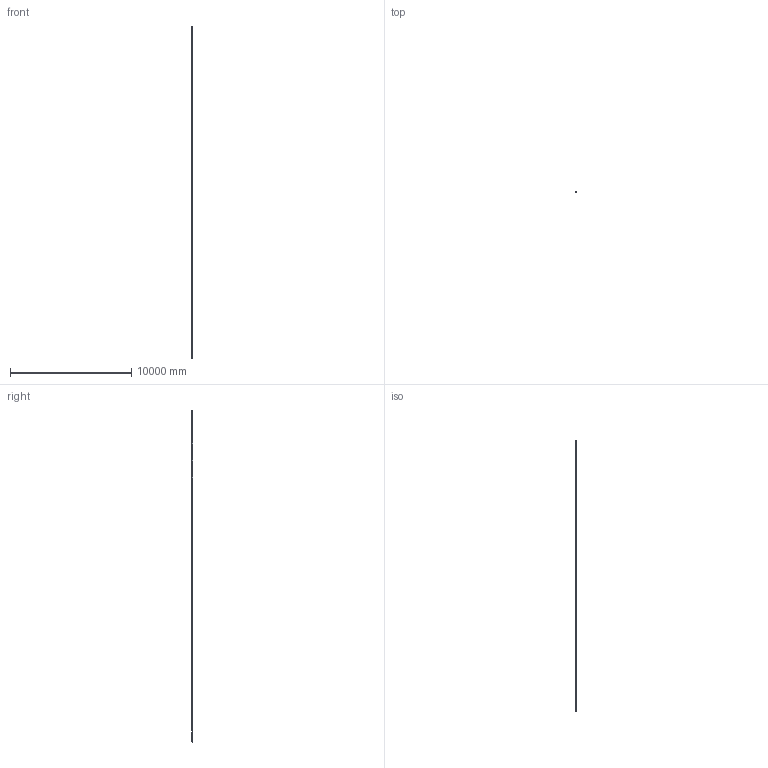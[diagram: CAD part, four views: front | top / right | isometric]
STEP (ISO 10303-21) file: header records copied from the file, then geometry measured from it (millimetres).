
FILE_DESCRIPTION(('Creo Elements/Direct Modeling STEP Export'),'2;1');
FILE_NAME('F-270.stp','2011-11-18T12:37:45',(''),(''),'Creo Elements/Direct Modeling STEP processor for AP214 (Solid Model)','Creo Elements/Direct Modeling 17.0C 05-Feb-2011 (C) Parametric Technology GmbH','');
FILE_SCHEMA(('AUTOMOTIVE_DESIGN { 1 0 10303 214 1 1 1 1 }'));
Length unit declared in the file: millimetre
Products named in the file (5): Modulos_intermedio_(FL-14).2; CABEZA; Modulo_der_(18E); Modulo_izq_(K); F-270
Assembly tree (20 placements, depth 2):
  F-270
    Modulos_intermedio_(FL-14).2  x17
    Modulo_izq_(K)
    Modulo_der_(18E)
    CABEZA
Bounding box: 51.5 x 87.95 x 27335.6 mm (x, y, z)
Volume: 69562303.6 mm3; surface area: 7971389 mm2
Topology: 21 solids, 177 shells, 11169 faces, 31190 edges, 19867 vertices
Faces by surface type: cylinder 4903, plane 4108, cone 888, torus 586, bspline 494, extrusion 180, sphere 10
Entity records: 105742 total; most frequent: CARTESIAN_POINT 33363, ORIENTED_EDGE 15528, DIRECTION 13406, EDGE_CURVE 7758, VERTEX_POINT 5017, AXIS2_PLACEMENT_3D 4727, VECTOR 3952, LINE 3932
